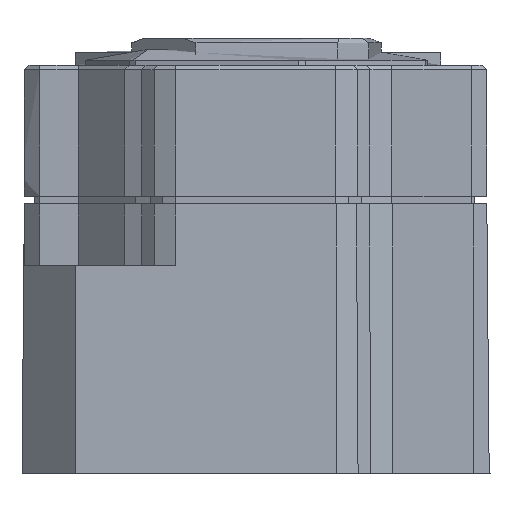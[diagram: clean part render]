
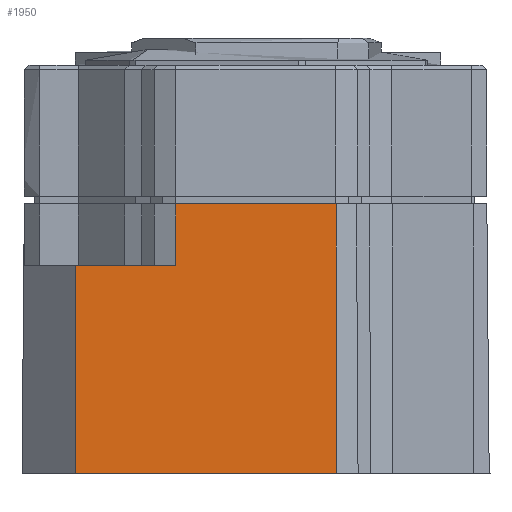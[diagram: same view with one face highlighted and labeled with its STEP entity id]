
A CAD part, front view. The second image highlights one B-rep face of the part: STEP entity #1950.
In plain terms, the highlighted planar face has unit normal (0, -1, 0.009).
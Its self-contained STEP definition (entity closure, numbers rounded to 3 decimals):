
#139=B_SPLINE_CURVE_WITH_KNOTS('',1,(#19047,#19048),.UNSPECIFIED.,.F.,.F.,
(2,2),(0.,6.481),.UNSPECIFIED.);
#140=B_SPLINE_CURVE_WITH_KNOTS('',1,(#19049,#19050),.UNSPECIFIED.,.F.,.F.,
(2,2),(-13.501,0.),.UNSPECIFIED.);
#141=B_SPLINE_CURVE_WITH_KNOTS('',1,(#19051,#19052),.UNSPECIFIED.,.F.,.F.,
(2,2),(0.,16.884),.UNSPECIFIED.);
#142=B_SPLINE_CURVE_WITH_KNOTS('',1,(#19053,#19054),.UNSPECIFIED.,.F.,.F.,
(2,2),(0.,17.501),.UNSPECIFIED.);
#143=B_SPLINE_CURVE_WITH_KNOTS('',1,(#19055,#19056),.UNSPECIFIED.,.F.,.F.,
(2,2),(0.,10.403),.UNSPECIFIED.);
#144=B_SPLINE_CURVE_WITH_KNOTS('',1,(#19057,#19058),.UNSPECIFIED.,.F.,.F.,
(2,2),(0.,4.),.UNSPECIFIED.);
#1950=ADVANCED_FACE('',(#2456),#11636,.T.);
#2456=FACE_OUTER_BOUND('',#2937,.T.);
#2937=EDGE_LOOP('',(#4285,#4286,#4287,#4288,#4289,#4290));
#4285=ORIENTED_EDGE('',*,*,#6541,.T.);
#4286=ORIENTED_EDGE('',*,*,#6542,.T.);
#4287=ORIENTED_EDGE('',*,*,#6543,.T.);
#4288=ORIENTED_EDGE('',*,*,#6544,.T.);
#4289=ORIENTED_EDGE('',*,*,#6545,.T.);
#4290=ORIENTED_EDGE('',*,*,#6546,.T.);
#6541=EDGE_CURVE('',#10478,#10479,#139,.T.);
#6542=EDGE_CURVE('',#10479,#10480,#140,.T.);
#6543=EDGE_CURVE('',#10480,#10481,#141,.T.);
#6544=EDGE_CURVE('',#10481,#10482,#142,.T.);
#6545=EDGE_CURVE('',#10482,#10483,#143,.T.);
#6546=EDGE_CURVE('',#10483,#10478,#144,.T.);
#10478=VERTEX_POINT('',#19041);
#10479=VERTEX_POINT('',#19042);
#10480=VERTEX_POINT('',#19043);
#10481=VERTEX_POINT('',#19044);
#10482=VERTEX_POINT('',#19045);
#10483=VERTEX_POINT('',#19046);
#11636=PLANE('',#11860);
#11860=AXIS2_PLACEMENT_3D('',#19040,#12004,$);
#12004=DIRECTION('',(0.,-1.,0.009));
#19040=CARTESIAN_POINT('',(-13.513,-65.649,32.361));
#19041=CARTESIAN_POINT('',(-5.224,-65.7,26.49));
#19042=CARTESIAN_POINT('',(-11.705,-65.7,26.49));
#19043=CARTESIAN_POINT('',(-11.705,-65.818,12.99));
#19044=CARTESIAN_POINT('',(5.179,-65.818,12.99));
#19045=CARTESIAN_POINT('',(5.179,-65.665,30.49));
#19046=CARTESIAN_POINT('',(-5.224,-65.665,30.49));
#19047=CARTESIAN_POINT('',(-5.224,-65.7,26.49));
#19048=CARTESIAN_POINT('',(-11.705,-65.7,26.49));
#19049=CARTESIAN_POINT('',(-11.705,-65.7,26.49));
#19050=CARTESIAN_POINT('',(-11.705,-65.818,12.99));
#19051=CARTESIAN_POINT('',(-11.705,-65.818,12.99));
#19052=CARTESIAN_POINT('',(5.179,-65.818,12.99));
#19053=CARTESIAN_POINT('',(5.179,-65.818,12.99));
#19054=CARTESIAN_POINT('',(5.179,-65.665,30.49));
#19055=CARTESIAN_POINT('',(5.179,-65.665,30.49));
#19056=CARTESIAN_POINT('',(-5.224,-65.665,30.49));
#19057=CARTESIAN_POINT('',(-5.224,-65.665,30.49));
#19058=CARTESIAN_POINT('',(-5.224,-65.7,26.49));
